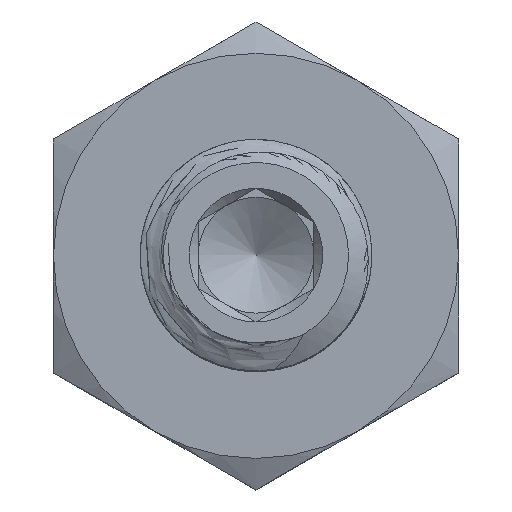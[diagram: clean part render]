
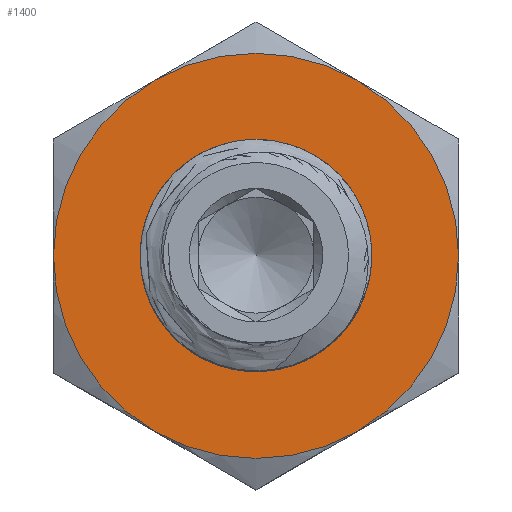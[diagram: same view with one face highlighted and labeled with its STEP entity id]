
A CAD part, top view. The second image highlights one B-rep face of the part: STEP entity #1400.
In plain terms, the highlighted planar face has unit normal (0, 0, 1) as drawn and (0, 1, 0) by its records, which use the part's own axes.
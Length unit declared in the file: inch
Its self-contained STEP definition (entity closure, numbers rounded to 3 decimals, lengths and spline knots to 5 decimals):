
#31=FACE_BOUND('',#266,.T.);
#46=PLANE('',#1582);
#177=FACE_OUTER_BOUND('',#265,.T.);
#265=EDGE_LOOP('',(#1190,#1191,#1192,#1193,#1194,#1195));
#266=EDGE_LOOP('',(#1196,#1197,#1198,#1199));
#310=CIRCLE('',#1547,0.21875);
#320=CIRCLE('',#1565,0.125);
#327=CIRCLE('',#1579,0.125);
#329=CIRCLE('',#1583,0.21875);
#330=CIRCLE('',#1584,0.21875);
#331=CIRCLE('',#1585,0.21875);
#332=CIRCLE('',#1586,0.21875);
#333=CIRCLE('',#1587,0.21875);
#334=CIRCLE('',#1588,0.125);
#335=CIRCLE('',#1589,0.125);
#599=VERTEX_POINT('',#6282);
#600=VERTEX_POINT('',#6283);
#621=VERTEX_POINT('',#6484);
#622=VERTEX_POINT('',#6485);
#637=VERTEX_POINT('',#6620);
#639=VERTEX_POINT('',#6634);
#641=VERTEX_POINT('',#6677);
#642=VERTEX_POINT('',#6678);
#643=VERTEX_POINT('',#6680);
#644=VERTEX_POINT('',#6682);
#774=EDGE_CURVE('',#599,#600,#310,.T.);
#802=EDGE_CURVE('',#621,#622,#320,.T.);
#826=EDGE_CURVE('',#622,#639,#327,.T.);
#831=EDGE_CURVE('',#641,#642,#329,.T.);
#832=EDGE_CURVE('',#643,#641,#330,.T.);
#833=EDGE_CURVE('',#644,#643,#331,.T.);
#834=EDGE_CURVE('',#600,#644,#332,.T.);
#835=EDGE_CURVE('',#642,#599,#333,.T.);
#836=EDGE_CURVE('',#639,#637,#334,.T.);
#837=EDGE_CURVE('',#637,#621,#335,.T.);
#1190=ORIENTED_EDGE('',*,*,#831,.F.);
#1191=ORIENTED_EDGE('',*,*,#832,.F.);
#1192=ORIENTED_EDGE('',*,*,#833,.F.);
#1193=ORIENTED_EDGE('',*,*,#834,.F.);
#1194=ORIENTED_EDGE('',*,*,#774,.F.);
#1195=ORIENTED_EDGE('',*,*,#835,.F.);
#1196=ORIENTED_EDGE('',*,*,#826,.T.);
#1197=ORIENTED_EDGE('',*,*,#836,.T.);
#1198=ORIENTED_EDGE('',*,*,#837,.T.);
#1199=ORIENTED_EDGE('',*,*,#802,.T.);
#1400=ADVANCED_FACE('',(#177,#31),#46,.T.);
#1547=AXIS2_PLACEMENT_3D('',#6284,#1794,#1795);
#1565=AXIS2_PLACEMENT_3D('',#6486,#1836,#1837);
#1579=AXIS2_PLACEMENT_3D('',#6648,#1867,#1868);
#1582=AXIS2_PLACEMENT_3D('',#6676,#1873,#1874);
#1583=AXIS2_PLACEMENT_3D('',#6679,#1875,#1876);
#1584=AXIS2_PLACEMENT_3D('',#6681,#1877,#1878);
#1585=AXIS2_PLACEMENT_3D('',#6683,#1879,#1880);
#1586=AXIS2_PLACEMENT_3D('',#6684,#1881,#1882);
#1587=AXIS2_PLACEMENT_3D('',#6685,#1883,#1884);
#1588=AXIS2_PLACEMENT_3D('',#6686,#1885,#1886);
#1589=AXIS2_PLACEMENT_3D('',#6687,#1887,#1888);
#1794=DIRECTION('center_axis',(0.,-1.,0.));
#1795=DIRECTION('ref_axis',(0.,0.,-1.));
#1836=DIRECTION('center_axis',(0.,-1.,0.));
#1837=DIRECTION('ref_axis',(0.,0.,-1.));
#1867=DIRECTION('center_axis',(0.,-1.,0.));
#1868=DIRECTION('ref_axis',(0.,0.,-1.));
#1873=DIRECTION('center_axis',(0.,1.,0.));
#1874=DIRECTION('ref_axis',(0.,0.,1.));
#1875=DIRECTION('center_axis',(0.,-1.,0.));
#1876=DIRECTION('ref_axis',(0.,0.,-1.));
#1877=DIRECTION('center_axis',(0.,-1.,0.));
#1878=DIRECTION('ref_axis',(0.,0.,-1.));
#1879=DIRECTION('center_axis',(0.,-1.,0.));
#1880=DIRECTION('ref_axis',(0.,0.,-1.));
#1881=DIRECTION('center_axis',(0.,-1.,0.));
#1882=DIRECTION('ref_axis',(0.,0.,-1.));
#1883=DIRECTION('center_axis',(0.,-1.,0.));
#1884=DIRECTION('ref_axis',(0.,0.,-1.));
#1885=DIRECTION('center_axis',(0.,-1.,0.));
#1886=DIRECTION('ref_axis',(0.,0.,-1.));
#1887=DIRECTION('center_axis',(0.,-1.,0.));
#1888=DIRECTION('ref_axis',(0.,0.,-1.));
#6282=CARTESIAN_POINT('',(-0.10938,0.15625,-0.18944));
#6283=CARTESIAN_POINT('',(0.10938,0.15625,-0.18944));
#6284=CARTESIAN_POINT('Origin',(0.,0.15625,0.));
#6484=CARTESIAN_POINT('',(-0.07081,0.15625,-0.10301));
#6485=CARTESIAN_POINT('',(0.07081,0.15625,-0.10301));
#6486=CARTESIAN_POINT('Origin',(0.,0.15625,0.));
#6620=CARTESIAN_POINT('',(-0.10604,0.15625,0.06619));
#6634=CARTESIAN_POINT('',(0.10604,0.15625,0.06619));
#6648=CARTESIAN_POINT('Origin',(0.,0.15625,0.));
#6676=CARTESIAN_POINT('Origin',(0.,0.15625,-0.25259));
#6677=CARTESIAN_POINT('',(-0.10938,0.15625,0.18944));
#6678=CARTESIAN_POINT('',(-0.21875,0.15625,0.));
#6679=CARTESIAN_POINT('Origin',(0.,0.15625,0.));
#6680=CARTESIAN_POINT('',(0.10938,0.15625,0.18944));
#6681=CARTESIAN_POINT('Origin',(0.,0.15625,0.));
#6682=CARTESIAN_POINT('',(0.21875,0.15625,0.));
#6683=CARTESIAN_POINT('Origin',(0.,0.15625,0.));
#6684=CARTESIAN_POINT('Origin',(0.,0.15625,0.));
#6685=CARTESIAN_POINT('Origin',(0.,0.15625,0.));
#6686=CARTESIAN_POINT('Origin',(0.,0.15625,0.));
#6687=CARTESIAN_POINT('Origin',(0.,0.15625,0.));
